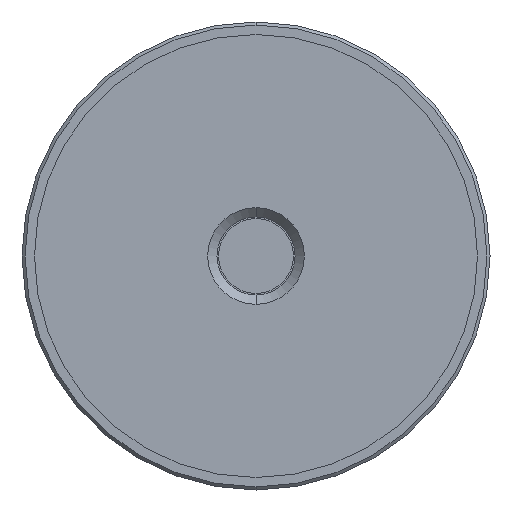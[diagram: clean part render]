
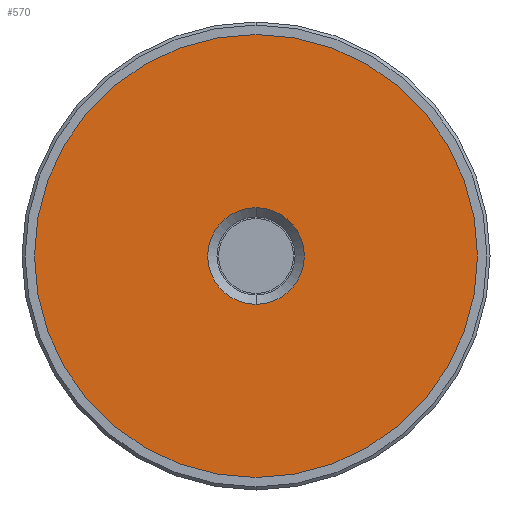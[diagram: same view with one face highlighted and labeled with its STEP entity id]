
A CAD part, front view. The second image highlights one B-rep face of the part: STEP entity #570.
In plain terms, the highlighted planar face has unit normal (0, -1, 0).
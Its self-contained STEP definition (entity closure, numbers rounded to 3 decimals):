
#4 = AXIS2_PLACEMENT_3D ( 'NONE', #476, #380, #105 ) ;
#37 = ORIENTED_EDGE ( 'NONE', *, *, #625, .T. ) ;
#98 = CARTESIAN_POINT ( 'NONE',  ( 0., -1.5, 0. ) ) ;
#105 = DIRECTION ( 'NONE',  ( 0., 0., 1. ) ) ;
#128 = DIRECTION ( 'NONE',  ( 0., -1., 0. ) ) ;
#139 = CIRCLE ( 'NONE', #746, 7.75 ) ;
#140 = AXIS2_PLACEMENT_3D ( 'NONE', #98, #886, #698 ) ;
#171 = ORIENTED_EDGE ( 'NONE', *, *, #849, .F. ) ;
#224 = VERTEX_POINT ( 'NONE', #848 ) ;
#237 = VERTEX_POINT ( 'NONE', #968 ) ;
#251 = ORIENTED_EDGE ( 'NONE', *, *, #1058, .T. ) ;
#323 = FACE_OUTER_BOUND ( 'NONE', #509, .T. ) ;
#380 = DIRECTION ( 'NONE',  ( 0., 1., 0. ) ) ;
#392 = CARTESIAN_POINT ( 'NONE',  ( 0., -1.5, -35.5 ) ) ;
#419 = VERTEX_POINT ( 'NONE', #392 ) ;
#447 = CIRCLE ( 'NONE', #577, 7.75 ) ;
#476 = CARTESIAN_POINT ( 'NONE',  ( 0., -1.5, 0. ) ) ;
#509 = EDGE_LOOP ( 'NONE', ( #171, #511 ) ) ;
#511 = ORIENTED_EDGE ( 'NONE', *, *, #1021, .F. ) ;
#523 = CARTESIAN_POINT ( 'NONE',  ( 0., -1.5, 0. ) ) ;
#566 = AXIS2_PLACEMENT_3D ( 'NONE', #1100, #128, #1008 ) ;
#570 = ADVANCED_FACE ( 'NONE', ( #616, #323 ), #806, .T. ) ;
#577 = AXIS2_PLACEMENT_3D ( 'NONE', #523, #819, #709 ) ;
#601 = CIRCLE ( 'NONE', #4, 35.5 ) ;
#616 = FACE_BOUND ( 'NONE', #865, .T. ) ;
#625 = EDGE_CURVE ( 'NONE', #224, #237, #447, .T. ) ;
#660 = VERTEX_POINT ( 'NONE', #919 ) ;
#698 = DIRECTION ( 'NONE',  ( 0., 0., 1. ) ) ;
#709 = DIRECTION ( 'NONE',  ( 0., 0., -1. ) ) ;
#746 = AXIS2_PLACEMENT_3D ( 'NONE', #906, #1088, #797 ) ;
#797 = DIRECTION ( 'NONE',  ( 0., 0., -1. ) ) ;
#806 = PLANE ( 'NONE',  #566 ) ;
#819 = DIRECTION ( 'NONE',  ( 0., 1., 0. ) ) ;
#848 = CARTESIAN_POINT ( 'NONE',  ( 0., -1.5, 7.75 ) ) ;
#849 = EDGE_CURVE ( 'NONE', #660, #419, #601, .T. ) ;
#865 = EDGE_LOOP ( 'NONE', ( #251, #37 ) ) ;
#886 = DIRECTION ( 'NONE',  ( 0., 1., 0. ) ) ;
#906 = CARTESIAN_POINT ( 'NONE',  ( 0., -1.5, 0. ) ) ;
#907 = CIRCLE ( 'NONE', #140, 35.5 ) ;
#919 = CARTESIAN_POINT ( 'NONE',  ( 0., -1.5, 35.5 ) ) ;
#968 = CARTESIAN_POINT ( 'NONE',  ( 0., -1.5, -7.75 ) ) ;
#1008 = DIRECTION ( 'NONE',  ( 0., 0., -1. ) ) ;
#1021 = EDGE_CURVE ( 'NONE', #419, #660, #907, .T. ) ;
#1058 = EDGE_CURVE ( 'NONE', #237, #224, #139, .T. ) ;
#1088 = DIRECTION ( 'NONE',  ( 0., 1., 0. ) ) ;
#1100 = CARTESIAN_POINT ( 'NONE',  ( 0., -1.5, 35.5 ) ) ;
